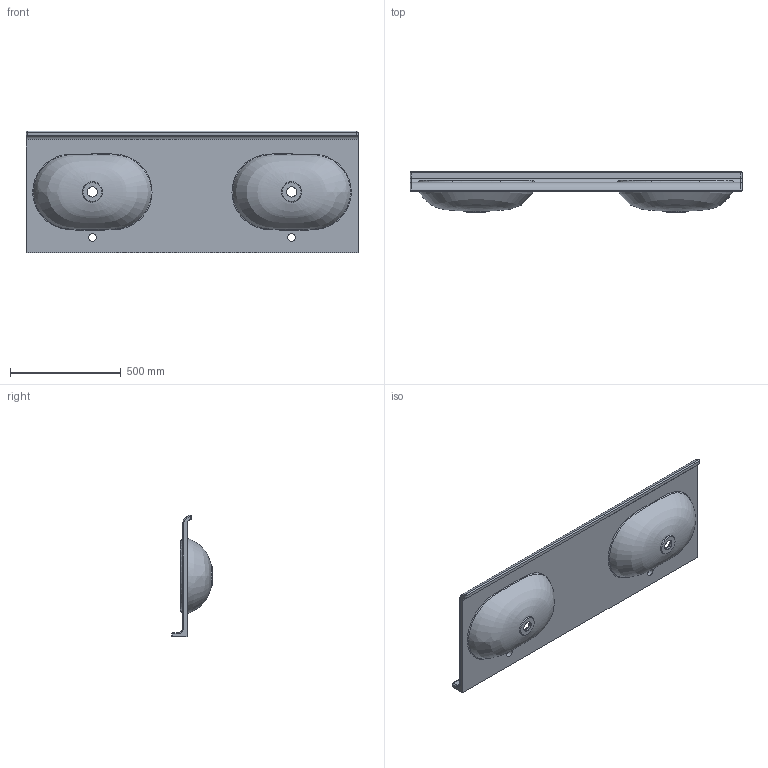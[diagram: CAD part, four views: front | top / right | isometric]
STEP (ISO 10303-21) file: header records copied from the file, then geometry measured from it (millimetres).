
FILE_DESCRIPTION (( 'STEP AP203' ), '1' );
FILE_NAME ('SMLC15055D0M.STEP', '2019-10-23T10:15:35', ( '' ), ( '' ), 'SwSTEP 2.0', 'SolidWorks 2019', '' );
FILE_SCHEMA (( 'CONFIG_CONTROL_DESIGN' ));
Products named in the file (1): SMLC15055D0M
Bounding box: 1500 x 185 x 549.64 mm (x, y, z)
Volume: 20845937.4 mm3; surface area: 2164381.9 mm2
Topology: 1 solids, 1 shells, 73 faces, 171 edges, 102 vertices
Faces by surface type: bspline 22, cylinder 17, plane 14, torus 10, cone 6, sphere 4
Full cylindrical faces by diameter (mm): 35 x2, 46 x2
Entity records: 50670 total; most frequent: CARTESIAN_POINT 49181, ORIENTED_EDGE 278, DIRECTION 263, EDGE_CURVE 139, AXIS2_PLACEMENT_3D 112, EDGE_LOOP 105, VERTEX_POINT 92, FACE_OUTER_BOUND 89
